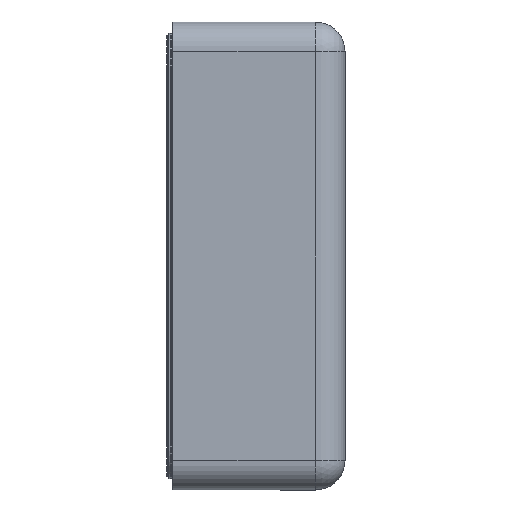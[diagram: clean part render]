
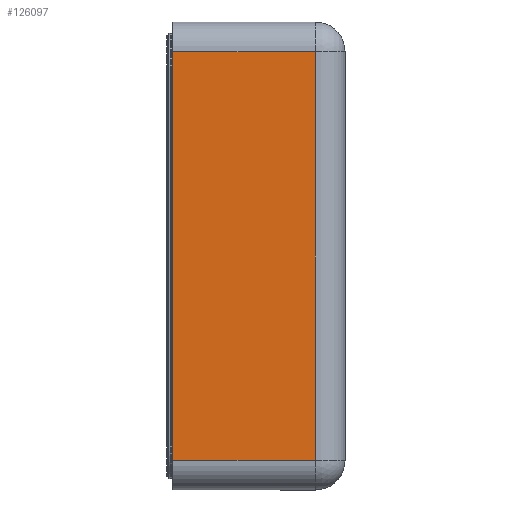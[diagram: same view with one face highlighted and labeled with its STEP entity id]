
A CAD part, left-side view. The second image highlights one B-rep face of the part: STEP entity #126097.
In plain terms, the highlighted planar face has unit normal (-1, 0, 0).
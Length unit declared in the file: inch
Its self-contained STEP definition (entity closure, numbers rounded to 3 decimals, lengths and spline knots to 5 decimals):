
#11 = EDGE_LOOP ( 'NONE', ( #62841, #54007, #75268, #85577 ) ) ;
#4100 = CARTESIAN_POINT ( 'NONE',  ( -23., 0.3, -8.3 ) ) ;
#5324 = EDGE_CURVE ( 'NONE', #100157, #111167, #129039, .T. ) ;
#16086 = LINE ( 'NONE', #4100, #49703 ) ;
#21867 = CARTESIAN_POINT ( 'NONE',  ( -23., 0., 8.3 ) ) ;
#34960 = CARTESIAN_POINT ( 'NONE',  ( -23., 0.3, 8.3 ) ) ;
#35555 = CARTESIAN_POINT ( 'NONE',  ( -23., 0.3, 8.3 ) ) ;
#45244 = CARTESIAN_POINT ( 'NONE',  ( -23., 0., -8.3 ) ) ;
#46957 = FACE_OUTER_BOUND ( 'NONE', #11, .T. ) ;
#49044 = LINE ( 'NONE', #21867, #138854 ) ;
#49703 = VECTOR ( 'NONE', #136959, 39.37008 ) ;
#50372 = VECTOR ( 'NONE', #71541, 39.37008 ) ;
#53881 = DIRECTION ( 'NONE',  ( 0., 0., -1. ) ) ;
#54007 = ORIENTED_EDGE ( 'NONE', *, *, #5324, .T. ) ;
#55779 = VERTEX_POINT ( 'NONE', #152618 ) ;
#57287 = EDGE_CURVE ( 'NONE', #55779, #111167, #73134, .T. ) ;
#62545 = CARTESIAN_POINT ( 'NONE',  ( -23., -5.8, -8.3 ) ) ;
#62841 = ORIENTED_EDGE ( 'NONE', *, *, #99484, .T. ) ;
#71541 = DIRECTION ( 'NONE',  ( 0., -1., 0. ) ) ;
#73134 = LINE ( 'NONE', #35555, #50372 ) ;
#75268 = ORIENTED_EDGE ( 'NONE', *, *, #57287, .F. ) ;
#83769 = DIRECTION ( 'NONE',  ( 1., 0., 0. ) ) ;
#85577 = ORIENTED_EDGE ( 'NONE', *, *, #94928, .T. ) ;
#94546 = CARTESIAN_POINT ( 'NONE',  ( -23., -5.8, 8.3 ) ) ;
#94928 = EDGE_CURVE ( 'NONE', #55779, #121642, #49044, .T. ) ;
#99484 = EDGE_CURVE ( 'NONE', #121642, #100157, #16086, .T. ) ;
#100157 = VERTEX_POINT ( 'NONE', #62545 ) ;
#111167 = VERTEX_POINT ( 'NONE', #119121 ) ;
#118567 = DIRECTION ( 'NONE',  ( 0., 0., 1. ) ) ;
#119121 = CARTESIAN_POINT ( 'NONE',  ( -23., -5.8, 8.3 ) ) ;
#121642 = VERTEX_POINT ( 'NONE', #45244 ) ;
#122905 = AXIS2_PLACEMENT_3D ( 'NONE', #34960, #83769, #53881 ) ;
#126097 = ADVANCED_FACE ( 'NONE', ( #46957 ), #144624, .F. ) ;
#129039 = LINE ( 'NONE', #94546, #140358 ) ;
#136959 = DIRECTION ( 'NONE',  ( 0., -1., 0. ) ) ;
#138854 = VECTOR ( 'NONE', #156309, 39.37008 ) ;
#140358 = VECTOR ( 'NONE', #118567, 39.37008 ) ;
#144624 = PLANE ( 'NONE',  #122905 ) ;
#152618 = CARTESIAN_POINT ( 'NONE',  ( -23., 0., 8.3 ) ) ;
#156309 = DIRECTION ( 'NONE',  ( 0., 0., -1. ) ) ;
